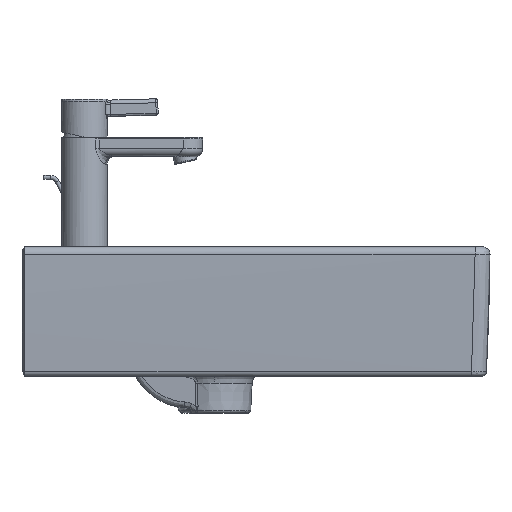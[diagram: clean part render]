
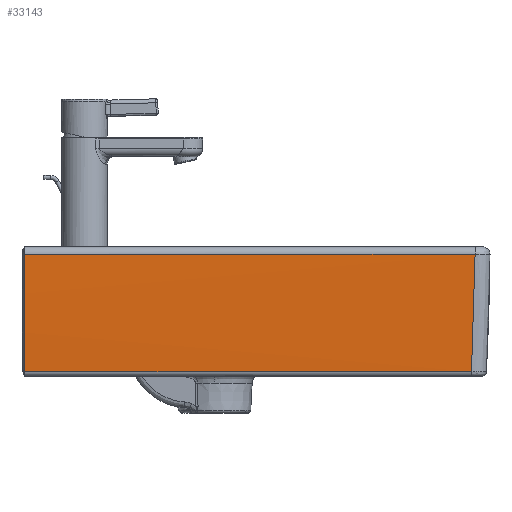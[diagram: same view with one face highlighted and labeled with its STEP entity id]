
A CAD part, front view. The second image highlights one B-rep face of the part: STEP entity #33143.
In plain terms, the highlighted cylindrical face has radius 3000 mm (diameter 6000 mm), a partial arc.
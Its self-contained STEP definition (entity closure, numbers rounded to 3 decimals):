
#6445=CARTESIAN_POINT('',(2.8,-346.332,-125.441));
#6446=VERTEX_POINT('',#6445);
#6456=CARTESIAN_POINT('',(2.8,-349.927,-7.581));
#6457=VERTEX_POINT('',#6456);
#6458=CARTESIAN_POINT('',(2.8,2649.896,24.938));
#6459=DIRECTION('',(-1.0,0.,0.));
#6460=DIRECTION('',(0.,1.0,0.));
#6461=AXIS2_PLACEMENT_3D('',#6458,#6459,#6460);
#6462=CIRCLE('',#6461,3000.0);
#6463=EDGE_CURVE('',#6457,#6446,#6462,.F.);
#7931=CARTESIAN_POINT('',(451.351,-346.332,-125.441));
#7932=VERTEX_POINT('',#7931);
#32759=CARTESIAN_POINT('',(454.928,-349.927,-7.581));
#32760=VERTEX_POINT('',#32759);
#32774=CARTESIAN_POINT('',(451.351,-346.332,-125.441));
#32775=CARTESIAN_POINT('',(452.527,-347.514,-101.904));
#32776=CARTESIAN_POINT('',(453.472,-348.464,-78.344));
#32777=CARTESIAN_POINT('',(454.188,-349.184,-54.763));
#32778=CARTESIAN_POINT('',(454.674,-349.672,-31.174));
#32779=CARTESIAN_POINT('',(454.928,-349.927,-7.581));
#32780=B_SPLINE_CURVE_WITH_KNOTS('',5,(#32774,#32775,#32776,#32777,#32778,#32779),.UNSPECIFIED.,.F.,.U.,(6,6),(53.068,257.416),.UNSPECIFIED.);
#32781=EDGE_CURVE('',#7932,#32760,#32780,.T.);
#33116=CARTESIAN_POINT('',(451.351,-346.332,-125.441));
#33117=DIRECTION('',(-1.0,0.0,0.0));
#33118=VECTOR('',#33117,448.551);
#33119=LINE('',#33116,#33118);
#33120=EDGE_CURVE('',#6446,#7932,#33119,.F.);
#33127=CARTESIAN_POINT('',(235.0,2649.896,24.938));
#33128=DIRECTION('',(1.0,0.0,0.0));
#33129=DIRECTION('',(0.0,-1.,-0.011));
#33130=AXIS2_PLACEMENT_3D('',#33127,#33128,#33129);
#33131=CYLINDRICAL_SURFACE('',#33130,3000.);
#33132=ORIENTED_EDGE('',*,*,#32781,.T.);
#33133=CARTESIAN_POINT('',(2.8,-349.927,-7.581));
#33134=DIRECTION('',(1.0,0.0,0.0));
#33135=VECTOR('',#33134,452.128);
#33136=LINE('',#33133,#33135);
#33137=EDGE_CURVE('',#32760,#6457,#33136,.F.);
#33138=ORIENTED_EDGE('',*,*,#33137,.T.);
#33139=ORIENTED_EDGE('',*,*,#6463,.T.);
#33140=ORIENTED_EDGE('',*,*,#33120,.T.);
#33141=EDGE_LOOP('',(#33132,#33138,#33139,#33140));
#33142=FACE_OUTER_BOUND('',#33141,.T.);
#33143=ADVANCED_FACE('',(#33142),#33131,.T.);
